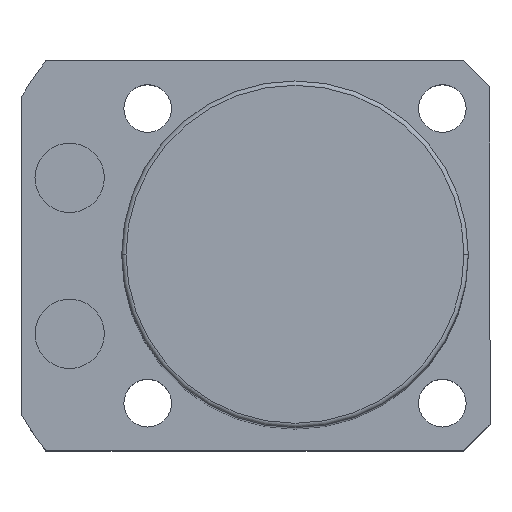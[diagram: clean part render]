
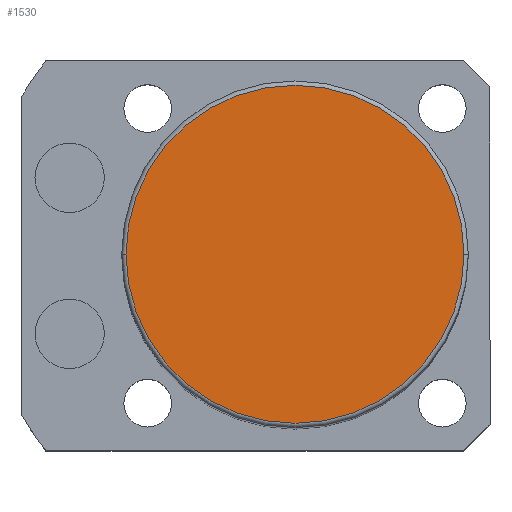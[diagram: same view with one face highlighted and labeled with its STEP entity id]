
A CAD part, top view. The second image highlights one B-rep face of the part: STEP entity #1530.
In plain terms, the highlighted planar face has unit normal (0, 0, 1).
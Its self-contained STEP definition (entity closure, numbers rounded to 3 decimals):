
#8 = AXIS2_PLACEMENT_3D ( 'NONE', #2360, #2330, #1960 ) ;
#76 = VERTEX_POINT ( 'NONE', #2180 ) ;
#638 = CARTESIAN_POINT ( 'NONE',  ( -19.5, 0., 113.5 ) ) ;
#722 = AXIS2_PLACEMENT_3D ( 'NONE', #1804, #1441, #1231 ) ;
#1179 = CIRCLE ( 'NONE', #722, 19.5 ) ;
#1231 = DIRECTION ( 'NONE',  ( 1., 0., 0. ) ) ;
#1441 = DIRECTION ( 'NONE',  ( 0., 0., 1. ) ) ;
#1530 = ADVANCED_FACE ( 'NONE', ( #1662 ), #2150, .T. ) ;
#1602 = CIRCLE ( 'NONE', #1929, 19.5 ) ;
#1662 = FACE_OUTER_BOUND ( 'NONE', #2234, .T. ) ;
#1725 = CARTESIAN_POINT ( 'NONE',  ( 0., 0., 113.5 ) ) ;
#1804 = CARTESIAN_POINT ( 'NONE',  ( 0., 0., 113.5 ) ) ;
#1859 = VERTEX_POINT ( 'NONE', #638 ) ;
#1926 = DIRECTION ( 'NONE',  ( 1., 0., 0. ) ) ;
#1929 = AXIS2_PLACEMENT_3D ( 'NONE', #1725, #2290, #1926 ) ;
#1952 = EDGE_CURVE ( 'NONE', #76, #1859, #1602, .T. ) ;
#1960 = DIRECTION ( 'NONE',  ( 1., 0., 0. ) ) ;
#2150 = PLANE ( 'NONE',  #8 ) ;
#2180 = CARTESIAN_POINT ( 'NONE',  ( 19.5, 0., 113.5 ) ) ;
#2202 = ORIENTED_EDGE ( 'NONE', *, *, #2212, .T. ) ;
#2212 = EDGE_CURVE ( 'NONE', #1859, #76, #1179, .T. ) ;
#2234 = EDGE_LOOP ( 'NONE', ( #2361, #2202 ) ) ;
#2290 = DIRECTION ( 'NONE',  ( 0., 0., 1. ) ) ;
#2330 = DIRECTION ( 'NONE',  ( 0., 0., 1. ) ) ;
#2360 = CARTESIAN_POINT ( 'NONE',  ( 0., 0., 113.5 ) ) ;
#2361 = ORIENTED_EDGE ( 'NONE', *, *, #1952, .T. ) ;
